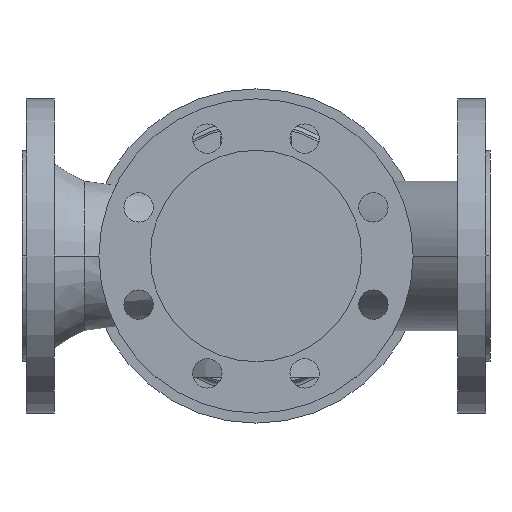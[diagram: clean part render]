
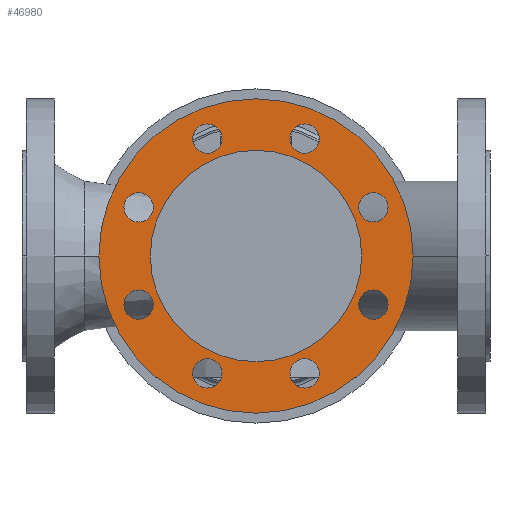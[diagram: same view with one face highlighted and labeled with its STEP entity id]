
A CAD part, front view. The second image highlights one B-rep face of the part: STEP entity #46980.
In plain terms, the highlighted planar face has unit normal (0, -1, 0).
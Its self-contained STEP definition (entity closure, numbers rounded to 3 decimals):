
#3680=CARTESIAN_POINT('',(254.,-147.,0.));
#3690=VERTEX_POINT('',#3680);
#3870=CARTESIAN_POINT('',(96.,-147.,0.));
#3880=VERTEX_POINT('',#3870);
#3910=CARTESIAN_POINT('',(175.,-147.,0.));
#3920=DIRECTION('',(0.,-1.,0.));
#3930=DIRECTION('',(1.,0.,0.));
#3940=AXIS2_PLACEMENT_3D('',#3910,#3920,#3930);
#3950=CIRCLE('',#3940,79.);
#3960=EDGE_CURVE('',#3690,#3880,#3950,.T.);
#10760=CARTESIAN_POINT('',(57.5,-147.,0.));
#10770=VERTEX_POINT('',#10760);
#10930=CARTESIAN_POINT('',(292.5,-147.,0.));
#10940=VERTEX_POINT('',#10930);
#10970=CARTESIAN_POINT('',(175.,-147.,0.));
#10980=DIRECTION('',(0.,1.,0.));
#10990=DIRECTION('',(1.,0.,0.));
#11000=AXIS2_PLACEMENT_3D('',#10970,#10980,#10990);
#11010=CIRCLE('',#11000,117.5);
#11020=EDGE_CURVE('',#10770,#10940,#11010,.T.);
#11180=CARTESIAN_POINT('',(273.769,-147.,-36.355));
#11190=VERTEX_POINT('',#11180);
#11220=CARTESIAN_POINT('',(262.769,-147.,-36.355));
#11230=DIRECTION('',(0.,1.,0.));
#11240=DIRECTION('',(1.,0.,0.));
#11250=AXIS2_PLACEMENT_3D('',#11220,#11230,#11240);
#11260=CIRCLE('',#11250,11.);
#11270=CARTESIAN_POINT('',(251.769,-147.,-36.355));
#11280=VERTEX_POINT('',#11270);
#11290=EDGE_CURVE('',#11190,#11280,#11260,.T.);
#11600=CARTESIAN_POINT('',(251.769,-147.,36.355));
#11610=VERTEX_POINT('',#11600);
#11640=CARTESIAN_POINT('',(262.769,-147.,36.355));
#11650=DIRECTION('',(0.,1.,0.));
#11660=DIRECTION('',(1.,0.,0.));
#11670=AXIS2_PLACEMENT_3D('',#11640,#11650,#11660);
#11680=CIRCLE('',#11670,11.);
#11690=CARTESIAN_POINT('',(273.769,-147.,36.355));
#11700=VERTEX_POINT('',#11690);
#11710=EDGE_CURVE('',#11610,#11700,#11680,.T.);
#12020=CARTESIAN_POINT('',(200.355,-147.,-87.769));
#12030=VERTEX_POINT('',#12020);
#12060=CARTESIAN_POINT('',(211.355,-147.,-87.769));
#12070=DIRECTION('',(0.,1.,0.));
#12080=DIRECTION('',(1.,0.,0.));
#12090=AXIS2_PLACEMENT_3D('',#12060,#12070,#12080);
#12100=CIRCLE('',#12090,11.);
#12110=CARTESIAN_POINT('',(222.355,-147.,-87.769));
#12120=VERTEX_POINT('',#12110);
#12130=EDGE_CURVE('',#12030,#12120,#12100,.T.);
#12440=CARTESIAN_POINT('',(222.355,-147.,87.769));
#12450=VERTEX_POINT('',#12440);
#12480=CARTESIAN_POINT('',(211.355,-147.,87.769));
#12490=DIRECTION('',(0.,1.,0.));
#12500=DIRECTION('',(1.,0.,0.));
#12510=AXIS2_PLACEMENT_3D('',#12480,#12490,#12500);
#12520=CIRCLE('',#12510,11.);
#12530=CARTESIAN_POINT('',(200.355,-147.,87.769));
#12540=VERTEX_POINT('',#12530);
#12550=EDGE_CURVE('',#12450,#12540,#12520,.T.);
#12860=CARTESIAN_POINT('',(149.645,-147.,-87.769));
#12870=VERTEX_POINT('',#12860);
#12900=CARTESIAN_POINT('',(138.645,-147.,-87.769));
#12910=DIRECTION('',(0.,1.,0.));
#12920=DIRECTION('',(1.,0.,0.));
#12930=AXIS2_PLACEMENT_3D('',#12900,#12910,#12920);
#12940=CIRCLE('',#12930,11.);
#12950=CARTESIAN_POINT('',(127.645,-147.,-87.769));
#12960=VERTEX_POINT('',#12950);
#12970=EDGE_CURVE('',#12870,#12960,#12940,.T.);
#13280=CARTESIAN_POINT('',(149.645,-147.,87.769));
#13290=VERTEX_POINT('',#13280);
#13450=CARTESIAN_POINT('',(127.645,-147.,87.769));
#13460=VERTEX_POINT('',#13450);
#13490=CARTESIAN_POINT('',(138.645,-147.,87.769));
#13500=DIRECTION('',(0.,1.,0.));
#13510=DIRECTION('',(1.,0.,0.));
#13520=AXIS2_PLACEMENT_3D('',#13490,#13500,#13510);
#13530=CIRCLE('',#13520,11.);
#13540=EDGE_CURVE('',#13460,#13290,#13530,.T.);
#13700=CARTESIAN_POINT('',(98.231,-147.,-36.355));
#13710=VERTEX_POINT('',#13700);
#13870=CARTESIAN_POINT('',(76.231,-147.,-36.355));
#13880=VERTEX_POINT('',#13870);
#13910=CARTESIAN_POINT('',(87.231,-147.,-36.355));
#13920=DIRECTION('',(0.,1.,0.));
#13930=DIRECTION('',(1.,0.,0.));
#13940=AXIS2_PLACEMENT_3D('',#13910,#13920,#13930);
#13950=CIRCLE('',#13940,11.);
#13960=EDGE_CURVE('',#13880,#13710,#13950,.T.);
#14120=CARTESIAN_POINT('',(76.231,-147.,36.355));
#14130=VERTEX_POINT('',#14120);
#14160=CARTESIAN_POINT('',(87.231,-147.,36.355));
#14170=DIRECTION('',(0.,1.,0.));
#14180=DIRECTION('',(1.,0.,0.));
#14190=AXIS2_PLACEMENT_3D('',#14160,#14170,#14180);
#14200=CIRCLE('',#14190,11.);
#14210=CARTESIAN_POINT('',(98.231,-147.,36.355));
#14220=VERTEX_POINT('',#14210);
#14230=EDGE_CURVE('',#14130,#14220,#14200,.T.);
#46430=CARTESIAN_POINT('',(175.,-147.,0.));
#46440=DIRECTION('',(0.,1.,0.));
#46450=DIRECTION('',(0.,0.,1.));
#46460=AXIS2_PLACEMENT_3D('',#46430,#46440,#46450);
#46470=PLANE('',#46460);
#46480=ORIENTED_EDGE('',*,*,#14230,.T.);
#46490=EDGE_CURVE('',#14220,#14130,#14200,.T.);
#46500=ORIENTED_EDGE('',*,*,#46490,.T.);
#46510=EDGE_LOOP('',(#46500,#46480));
#46520=FACE_BOUND('',#46510,.T.);
#46530=EDGE_CURVE('',#13710,#13880,#13950,.T.);
#46540=ORIENTED_EDGE('',*,*,#46530,.T.);
#46550=ORIENTED_EDGE('',*,*,#13960,.T.);
#46560=EDGE_LOOP('',(#46550,#46540));
#46570=FACE_BOUND('',#46560,.T.);
#46580=EDGE_CURVE('',#13290,#13460,#13530,.T.);
#46590=ORIENTED_EDGE('',*,*,#46580,.T.);
#46600=ORIENTED_EDGE('',*,*,#13540,.T.);
#46610=EDGE_LOOP('',(#46600,#46590));
#46620=FACE_BOUND('',#46610,.T.);
#46630=EDGE_CURVE('',#12960,#12870,#12940,.T.);
#46640=ORIENTED_EDGE('',*,*,#46630,.T.);
#46650=ORIENTED_EDGE('',*,*,#12970,.T.);
#46660=EDGE_LOOP('',(#46650,#46640));
#46670=FACE_BOUND('',#46660,.T.);
#46680=EDGE_CURVE('',#12540,#12450,#12520,.T.);
#46690=ORIENTED_EDGE('',*,*,#46680,.T.);
#46700=ORIENTED_EDGE('',*,*,#12550,.T.);
#46710=EDGE_LOOP('',(#46700,#46690));
#46720=FACE_BOUND('',#46710,.T.);
#46730=EDGE_CURVE('',#12120,#12030,#12100,.T.);
#46740=ORIENTED_EDGE('',*,*,#46730,.T.);
#46750=ORIENTED_EDGE('',*,*,#12130,.T.);
#46760=EDGE_LOOP('',(#46750,#46740));
#46770=FACE_BOUND('',#46760,.T.);
#46780=EDGE_CURVE('',#11700,#11610,#11680,.T.);
#46790=ORIENTED_EDGE('',*,*,#46780,.T.);
#46800=ORIENTED_EDGE('',*,*,#11710,.T.);
#46810=EDGE_LOOP('',(#46800,#46790));
#46820=FACE_BOUND('',#46810,.T.);
#46830=ORIENTED_EDGE('',*,*,#11290,.T.);
#46840=EDGE_CURVE('',#11280,#11190,#11260,.T.);
#46850=ORIENTED_EDGE('',*,*,#46840,.T.);
#46860=EDGE_LOOP('',(#46850,#46830));
#46870=FACE_BOUND('',#46860,.T.);
#46880=EDGE_CURVE('',#10940,#10770,#11010,.T.);
#46890=ORIENTED_EDGE('',*,*,#46880,.F.);
#46900=ORIENTED_EDGE('',*,*,#11020,.F.);
#46910=EDGE_LOOP('',(#46900,#46890));
#46920=FACE_OUTER_BOUND('',#46910,.T.);
#46930=EDGE_CURVE('',#3880,#3690,#3950,.T.);
#46940=ORIENTED_EDGE('',*,*,#46930,.F.);
#46950=ORIENTED_EDGE('',*,*,#3960,.F.);
#46960=EDGE_LOOP('',(#46950,#46940));
#46970=FACE_BOUND('',#46960,.T.);
#46980=ADVANCED_FACE('',(#46520,#46570,#46620,#46670,#46720,#46770,
#46820,#46870,#46920,#46970),#46470,.F.);
